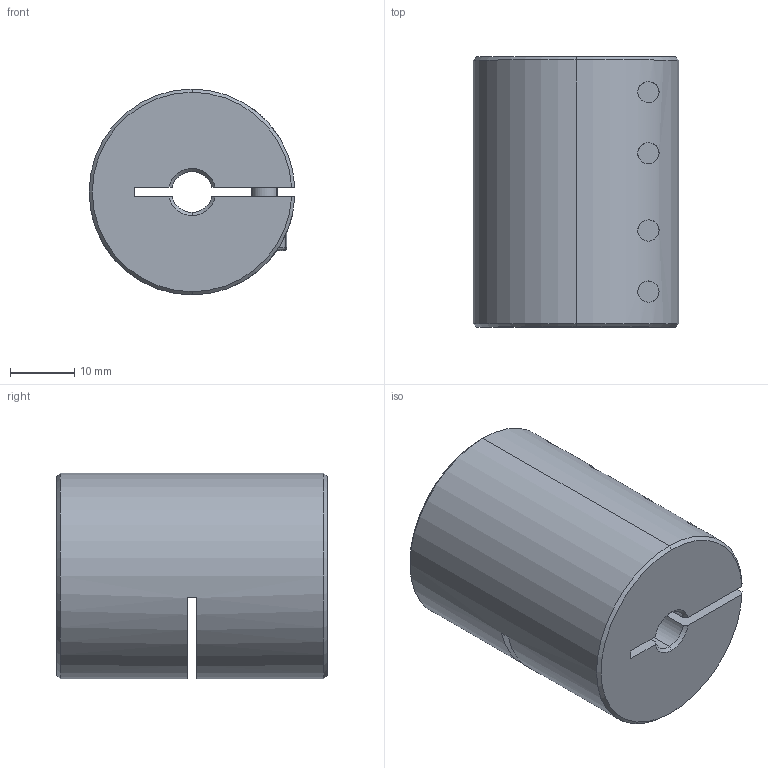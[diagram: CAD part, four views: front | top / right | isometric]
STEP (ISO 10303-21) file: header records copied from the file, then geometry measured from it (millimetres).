
FILE_DESCRIPTION (( 'STEP AP203' ), '1' );
FILE_NAME ('LL-B-D32L42-6.35-6.35.STEP', '2021-11-05T07:36:27', ( '' ), ( '' ), 'SwSTEP 2.0', 'SolidWorks 2018', '' );
FILE_SCHEMA (( 'CONFIG_CONTROL_DESIGN' ));
Length unit declared in the file: millimetre
Products named in the file (1): LL-B-D32L42-6.35-6.35
Bounding box: 31.98 x 42 x 32 mm (x, y, z)
Volume: 29858.1 mm3; surface area: 10263.4 mm2
Topology: 1 solids, 1 shells, 188 faces, 477 edges, 299 vertices
Faces by surface type: plane 86, cylinder 74, cone 20, torus 8
Entity records: 6205 total; most frequent: CARTESIAN_POINT 1529, DIRECTION 1006, ORIENTED_EDGE 938, EDGE_CURVE 469, AXIS2_PLACEMENT_3D 392, VERTEX_POINT 299, LINE 222, VECTOR 222
